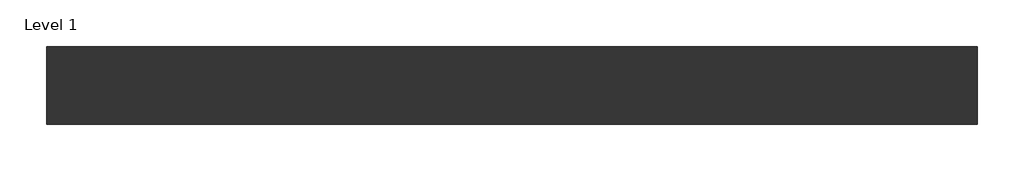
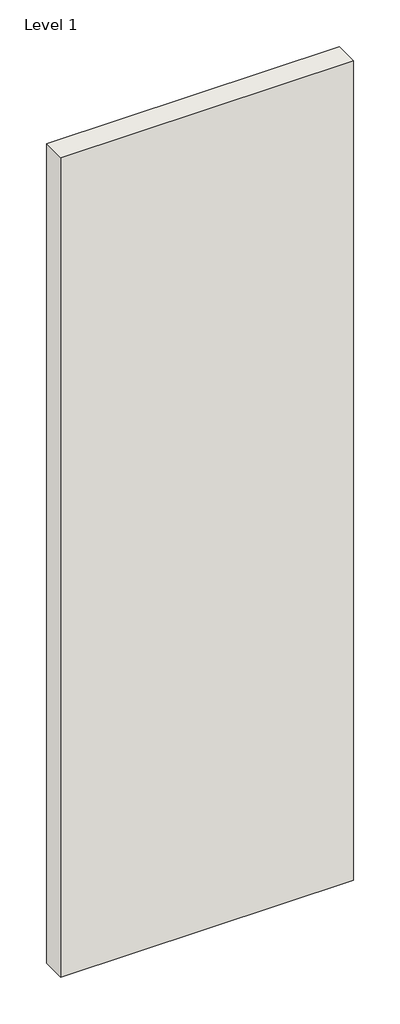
# One storey: 1 wall.
"""IFC4 building model written with IfcOpenShell, lengths in millimetres."""

import ifcopenshell
import ifcopenshell.guid

model = None  # the IFC model being written
_history = None  # IfcOwnerHistory: only IFC2X3 demands one
_inside = {}  # id of a spatial element -> (the spatial element, [elements in it])
_under = {}  # id of a project, library or spatial element -> (it, [spatial elements below it])
_declared = {}  # id of a project -> (the project, [libraries it declares])
_typed = {}  # id of a type object -> (the type object, [elements of that type])
_made_of = {}  # id of a material, layer set ... -> (it, [elements and type objects made of it])


def new_model(schema):
    """Start an empty IFC model of exactly this schema.

    Asked for "IFC4X3", IfcOpenShell would pick the latest addendum, in which some entities
    have other attributes; the version numbers below select the first issue.
    IFC2X3 requires an IfcOwnerHistory on every rooted entity: one is made here for all.
    """
    global model, _history
    if schema == "IFC4X3":
        model = ifcopenshell.file(schema_version=(4, 3, 0, 0))
    else:
        model = ifcopenshell.file(schema=schema)
    _inside.clear()
    _under.clear()
    _declared.clear()
    _typed.clear()
    _made_of.clear()
    _history = None
    if model.schema == "IFC2X3":
        org = make("IfcOrganization", Name="unknown")
        user = make(
            "IfcPersonAndOrganization",
            ThePerson=make("IfcPerson", FamilyName="unknown"),
            TheOrganization=org,
        )
        app = make(
            "IfcApplication",
            ApplicationDeveloper=org,
            Version="unknown",
            ApplicationFullName="unknown",
            ApplicationIdentifier="unknown",
        )
        _history = make(
            "IfcOwnerHistory",
            OwningUser=user,
            OwningApplication=app,
            ChangeAction="ADDED",
            CreationDate=0,
        )
    return model


def make(cls, **values):
    """One entity of the class cls with the attributes given. An attribute that is None is left unset."""
    return model.create_entity(
        cls, **{name: value for name, value in values.items() if value is not None}
    )


def rooted(cls, **values):
    """An entity with a GlobalId (a new one), such as an element, a storey or a relation."""
    return make(cls, GlobalId=ifcopenshell.guid.new(), OwnerHistory=_history, **values)


def si_unit(unit_type, name, prefix=None):
    """IfcSIUnit, for example si_unit("LENGTHUNIT", "METRE", prefix="MILLI")."""
    return make("IfcSIUnit", UnitType=unit_type, Prefix=prefix, Name=name)


def assignment(units):
    """IfcUnitAssignment: the units of a project."""
    return None if units is None else make("IfcUnitAssignment", Units=units)


def point(xyz):
    """IfcCartesianPoint."""
    return None if xyz is None else make("IfcCartesianPoint", Coordinates=xyz)


def direction(xyz):
    """IfcDirection."""
    return None if xyz is None else make("IfcDirection", DirectionRatios=xyz)


def frame(location, z_axis=None, x_axis=None):
    """IfcAxis2Placement3D, a coordinate frame: its origin and axes. An axis left out is left unset."""
    return make(
        "IfcAxis2Placement3D",
        Location=point(location),
        Axis=direction(z_axis),
        RefDirection=direction(x_axis),
    )


def origin():
    """The frame at (0, 0, 0) with its axes left unset."""
    return frame((0.0, 0.0, 0.0))


def origin_with_axes():
    """The frame at (0, 0, 0) with the z axis (0, 0, 1) and the x axis (1, 0, 0) written out."""
    return frame((0.0, 0.0, 0.0), z_axis=(0.0, 0.0, 1.0), x_axis=(1.0, 0.0, 0.0))


def place(relative_to, where):
    """IfcLocalPlacement: puts the frame where relative to a parent placement (None: the world)."""
    return make(
        "IfcLocalPlacement", PlacementRelTo=relative_to, RelativePlacement=where
    )


def context(
    kind, dimensions, precision=None, world=None, true_north=None, identifier=None
):
    """IfcGeometricRepresentationContext, for example the 3D "Model" context."""
    return make(
        "IfcGeometricRepresentationContext",
        ContextIdentifier=identifier,
        ContextType=kind,
        CoordinateSpaceDimension=dimensions,
        Precision=precision,
        WorldCoordinateSystem=world,
        TrueNorth=true_north,
    )


def project(units=None, contexts=None):
    """IfcProject with its units and contexts."""
    return rooted(
        "IfcProject",
        Name="project",
        RepresentationContexts=contexts,
        UnitsInContext=assignment(units),
    )


def spatial(cls, under=None, at=None, **own):
    """A site, building, storey or space (cls), placed at a placement, below another one or the project."""
    s = rooted(cls, ObjectPlacement=at, **own)
    if under is not None:
        _under.setdefault(under.id(), (under, []))[1].append(s)
    return s


def polyline(points):
    """IfcPolyline through the points."""
    return make("IfcPolyline", Points=[point(p) for p in points])


def outline(outer, holes=None, kind="AREA"):
    """IfcArbitraryClosedProfileDef: a profile drawn as a closed curve; with holes, ...WithVoids."""
    if holes is None:
        return make("IfcArbitraryClosedProfileDef", ProfileType=kind, OuterCurve=outer)
    return make(
        "IfcArbitraryProfileDefWithVoids",
        ProfileType=kind,
        OuterCurve=outer,
        InnerCurves=holes,
    )


def extrude(swept, where, along, depth):
    """IfcExtrudedAreaSolid: the profile swept, set in the frame where, extruded along a direction by depth."""
    return make(
        "IfcExtrudedAreaSolid",
        SweptArea=swept,
        Position=where,
        ExtrudedDirection=direction(along),
        Depth=depth,
    )


def shape(context_of_items, identifier, shape_type, items):
    """IfcShapeRepresentation: the items that make up one representation, for example the "Body"."""
    return make(
        "IfcShapeRepresentation",
        ContextOfItems=context_of_items,
        RepresentationIdentifier=identifier,
        RepresentationType=shape_type,
        Items=items,
    )


def made_of(thing, what):
    """Note that an element or type object is made of a material, layer set ...; save() writes the relation."""
    if what is not None:
        _made_of.setdefault(what.id(), (what, []))[1].append(thing)
    return thing


def element(
    cls,
    number,
    at=None,
    inside=None,
    cuts=None,
    type_object=None,
    material=None,
    context=None,
    identifier="Body",
    shape_type=None,
    held_by="IfcProductDefinitionShape",
    body=None,
    shapes=None,
    **own,
):
    """One element of the class cls, such as IfcWall. Its Tag is "e" and its number.

    at: its placement. inside: the storey or other place that contains it. cuts: it is an
    opening in that element (IfcRelVoidsElement). A single representation is given by context,
    identifier, shape_type and body (its items); several are given by shapes. held_by: the class
    of the entity that holds the representations. save() writes the other relations.
    """
    e = rooted(cls, Tag="e%d" % number, ObjectPlacement=at, **own)
    if body is not None:
        shapes = [shape(context, identifier, shape_type, body)]
    if shapes is not None:
        e.Representation = make(held_by, Representations=shapes)
    if inside is not None:
        _inside.setdefault(inside.id(), (inside, []))[1].append(e)
    if cuts is not None:
        rooted(
            "IfcRelVoidsElement", RelatingBuildingElement=cuts, RelatedOpeningElement=e
        )
    if type_object is not None:
        _typed.setdefault(type_object.id(), (type_object, []))[1].append(e)
    return made_of(e, material)


def aggregate(whole, parts):
    """IfcRelAggregates: a whole, such as a stair, and the parts it consists of."""
    return rooted("IfcRelAggregates", RelatingObject=whole, RelatedObjects=parts)


def save(model, path):
    """Write the relations noted so far, then the file.

    IfcRelAggregates (storeys below a building ...), IfcRelContainedInSpatialStructure (elements
    in a storey), IfcRelDefinesByType, IfcRelAssociatesMaterial and IfcRelDeclares: one each for
    every whole, place, type object, material and project.
    """
    for whole, parts in _under.values():
        aggregate(whole, parts)
    for where, things in _inside.values():
        rooted(
            "IfcRelContainedInSpatialStructure",
            RelatedElements=things,
            RelatingStructure=where,
        )
    for kind, things in _typed.values():
        rooted("IfcRelDefinesByType", RelatedObjects=things, RelatingType=kind)
    for what, things in _made_of.values():
        rooted("IfcRelAssociatesMaterial", RelatedObjects=things, RelatingMaterial=what)
    for by, libraries in _declared.values():
        rooted("IfcRelDeclares", RelatingContext=by, RelatedDefinitions=libraries)
    model.write(path)


model = new_model("IFC4")

# Units and contexts
model_context = context("Model", 3, world=origin())
ifc_project = project(units=[si_unit("LENGTHUNIT", "METRE", prefix="MILLI")], contexts=[model_context])

# Site, building, storey
site = spatial("IfcSite", under=ifc_project)
building = spatial("IfcBuilding", under=site)
storey = spatial("IfcBuildingStorey", under=building, Name="Level 1", Elevation=0.0)

# Wall
placement = place(None, origin())
element("IfcWall", 1, ObjectType="Tabique Simple – Placo® 100(70) BA15 + 70LM + BA15 c/400 - 45,7 dBA", at=placement, inside=storey, context=model_context, shape_type="SweptSolid", body=[
    extrude(outline(polyline([(-27296.4711674, -79223.3970389), (-28496.4711674, -79223.3970389), (-28496.4711674, -79123.3970389), (-27296.4711674, -79123.3970389), (-27296.4711674, -79223.3970389)])), origin_with_axes(), (0.0, 0.0, 1.0), 3550.0),
])

save(model, "model.ifc")
